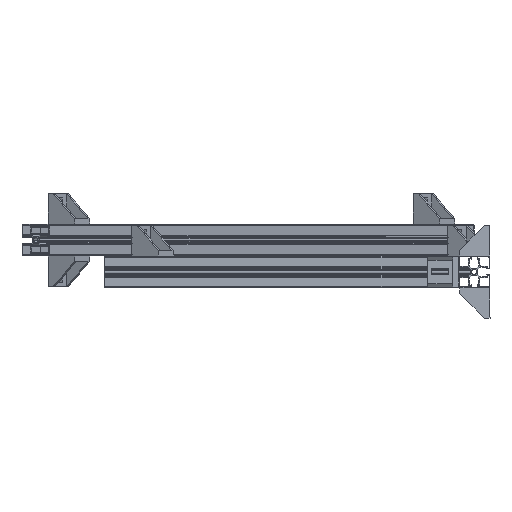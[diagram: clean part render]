
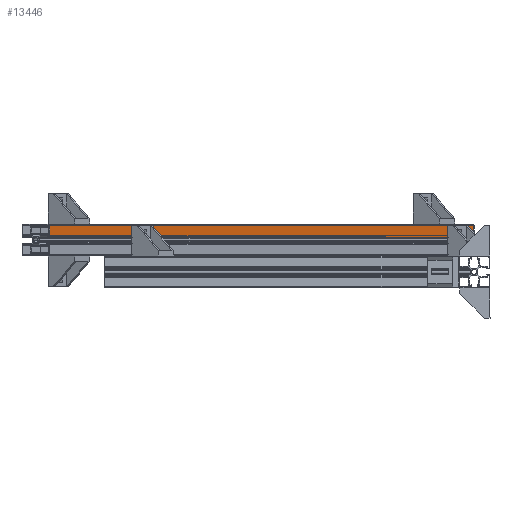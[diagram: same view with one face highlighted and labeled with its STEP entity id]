
A CAD part, left-side view. The second image highlights one B-rep face of the part: STEP entity #13446.
In plain terms, the highlighted planar face has unit normal (-0.5, -0.866, 0).
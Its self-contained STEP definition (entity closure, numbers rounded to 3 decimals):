
#263 = CARTESIAN_POINT ( 'NONE',  ( 716.672, -59.001, 42.5 ) ) ;
#277 = DIRECTION ( 'NONE',  ( 0., 0., -1. ) ) ;
#278 = CARTESIAN_POINT ( 'NONE',  ( 716.672, -59.001, 26.651 ) ) ;
#279 = DIRECTION ( 'NONE',  ( -0.866, 0.5, 0. ) ) ;
#280 = CARTESIAN_POINT ( 'NONE',  ( -322.559, 540.999, 42.5 ) ) ;
#281 = DIRECTION ( 'NONE',  ( 0., 0., -1. ) ) ;
#447 = CARTESIAN_POINT ( 'NONE',  ( 716.672, -59.001, 42.5 ) ) ;
#449 = DIRECTION ( 'NONE',  ( -0.866, 0.5, 0. ) ) ;
#3101 = FACE_OUTER_BOUND ( 'NONE', #16822, .T. ) ;
#7656 = EDGE_CURVE ( 'NONE', #14053, #13972, #9823, .T. ) ;
#7773 = EDGE_CURVE ( 'NONE', #14053, #14056, #10022, .T. ) ;
#7774 = EDGE_CURVE ( 'NONE', #14056, #13969, #10030, .T. ) ;
#7775 = EDGE_CURVE ( 'NONE', #13972, #13969, #10032, .T. ) ;
#9070 = CARTESIAN_POINT ( 'NONE',  ( 716.672, -59.001, 42.5 ) ) ;
#9075 = PLANE ( 'NONE',  #19752 ) ;
#9078 = DIRECTION ( 'NONE',  ( 0.5, 0.866, 0. ) ) ;
#9079 = DIRECTION ( 'NONE',  ( -0.866, 0.5, 0. ) ) ;
#9823 = LINE ( 'NONE', #447, #9826 ) ;
#9826 = VECTOR ( 'NONE', #449, 1000. ) ;
#10022 = LINE ( 'NONE', #263, #10031 ) ;
#10030 = LINE ( 'NONE', #278, #10033 ) ;
#10031 = VECTOR ( 'NONE', #277, 1000. ) ;
#10032 = LINE ( 'NONE', #280, #10035 ) ;
#10033 = VECTOR ( 'NONE', #279, 1000. ) ;
#10035 = VECTOR ( 'NONE', #281, 1000. ) ;
#13446 = ADVANCED_FACE ( 'NONE', ( #3101 ), #9075, .F. ) ;
#13969 = VERTEX_POINT ( 'NONE', #15980 ) ;
#13972 = VERTEX_POINT ( 'NONE', #15983 ) ;
#14053 = VERTEX_POINT ( 'NONE', #16064 ) ;
#14056 = VERTEX_POINT ( 'NONE', #16067 ) ;
#15980 = CARTESIAN_POINT ( 'NONE',  ( -322.559, 540.999, 26.651 ) ) ;
#15983 = CARTESIAN_POINT ( 'NONE',  ( -322.559, 540.999, 42.5 ) ) ;
#16064 = CARTESIAN_POINT ( 'NONE',  ( 716.672, -59.001, 42.5 ) ) ;
#16067 = CARTESIAN_POINT ( 'NONE',  ( 716.672, -59.001, 26.651 ) ) ;
#16822 = EDGE_LOOP ( 'NONE', ( #17081, #17082, #17083, #17084 ) ) ;
#17081 = ORIENTED_EDGE ( 'NONE', *, *, #7775, .T. ) ;
#17082 = ORIENTED_EDGE ( 'NONE', *, *, #7774, .F. ) ;
#17083 = ORIENTED_EDGE ( 'NONE', *, *, #7773, .F. ) ;
#17084 = ORIENTED_EDGE ( 'NONE', *, *, #7656, .T. ) ;
#19752 = AXIS2_PLACEMENT_3D ( 'NONE', #9070, #9078, #9079 ) ;
